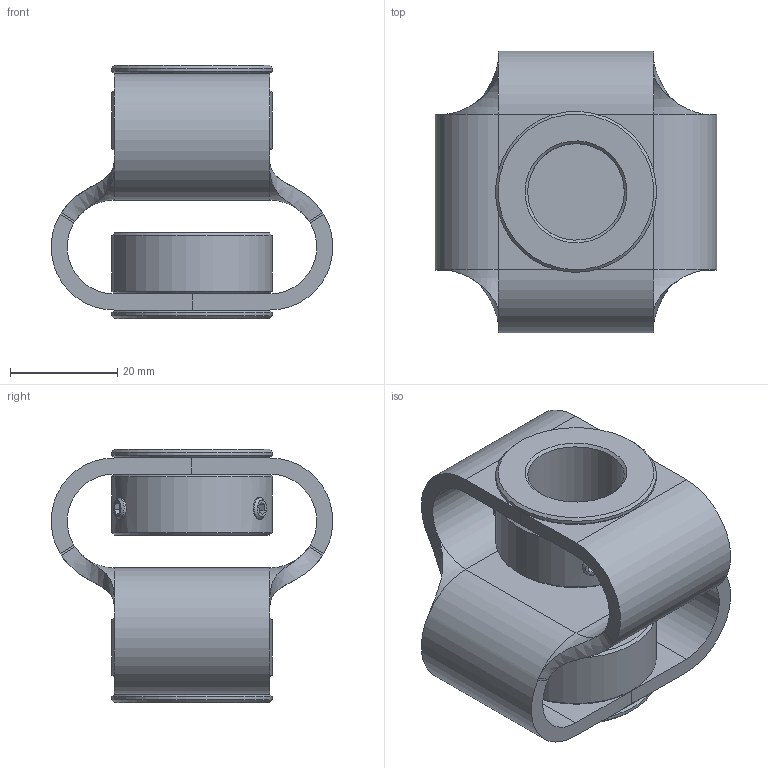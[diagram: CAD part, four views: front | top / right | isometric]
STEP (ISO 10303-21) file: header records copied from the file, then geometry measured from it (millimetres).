
FILE_DESCRIPTION(/* description */ ('Stern'),/* implementation_level */ '2;1');
FILE_NAME(/* name */ 'Z:\ABP-Antriebstechnik\Entwicklung-3D\Paguflex\DKPSX5658\DKPSX5658 12 18.stp',/* time_stamp */ '2021-06-21T11:51:45+02:00',/* author */ ('christian.fehrenbach'),/* organization */ (''),/* preprocessor_version */ 'ST-DEVELOPER v16.1',/* originating_system */ 'Autodesk Inventor 2016',/* authorisation */ '');
FILE_SCHEMA (('AUTOMOTIVE_DESIGN { 1 0 10303 214 3 1 1 }'));
Length unit declared in the file: millimetre
Products named in the file (5): DKPS 5658 Stern gebogen; Schraubnabe 2915 12; Schraubnabe 2915 18; DIN 916 - M4  x  6; DKPSX5658 12 18
Assembly tree (7 placements, depth 2):
  DKPSX5658 12 18
    DKPS 5658 Stern gebogen
    Schraubnabe 2915 12
    Schraubnabe 2915 18
    DIN 916 - M4  x  6  x4
Bounding box: 52.48 x 52.48 x 47.2 mm (x, y, z)
Volume: 31265.5 mm3; surface area: 20922.1 mm2
Topology: 7 solids, 11 shells, 158 faces, 342 edges, 194 vertices
Faces by surface type: plane 82, cylinder 28, cone 28, bspline 12, torus 8
Full cylindrical faces by diameter (mm): 4 x4, 4.134 x4, 12 x1, 18 x1, 22 x2, 30 x4
Entity records: 3371 total; most frequent: CARTESIAN_POINT 1120, DIRECTION 442, ORIENTED_EDGE 408, EDGE_CURVE 196, AXIS2_PLACEMENT_3D 182, EDGE_LOOP 148, VERTEX_POINT 128, FACE_OUTER_BOUND 104
